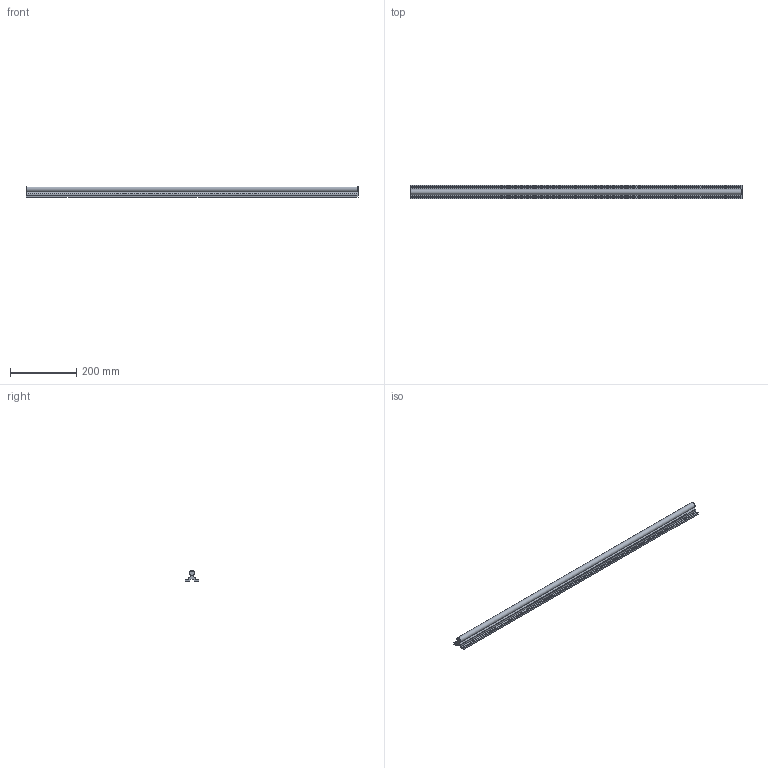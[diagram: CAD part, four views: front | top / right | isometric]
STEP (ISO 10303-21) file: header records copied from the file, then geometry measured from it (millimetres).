
FILE_DESCRIPTION(/* description */ (''),/* implementation_level */ '2;1');
FILE_NAME(/* name */ 'C:\Users\David\Desktop\stepFiles\Profilfuehrung\LFS16x1000.stp',/* time_stamp */ '2018-06-24T15:18:16+02:00',/* author */ ('Buskamp'),/* organization */ (''),/* preprocessor_version */ 'ST-DEVELOPER v17',/* originating_system */ 'Autodesk Inventor 2019',/* authorisation */ '');
FILE_SCHEMA (('AUTOMOTIVE_DESIGN { 1 0 10303 214 3 1 1 }'));
Length unit declared in the file: millimetre
Products named in the file (1): Linearführung D16xvariabel
Bounding box: 1000 x 40 x 32.97 mm (x, y, z)
Volume: 510597.1 mm3; surface area: 157326.1 mm2
Topology: 1 solids, 1 shells, 100 faces, 318 edges, 206 vertices
Faces by surface type: plane 67, cone 18, cylinder 15
Full cylindrical faces by diameter (mm): 5.5 x14
Entity records: 3595 total; most frequent: CARTESIAN_POINT 697, ORIENTED_EDGE 636, DIRECTION 602, EDGE_CURVE 318, AXIS2_PLACEMENT_3D 219, VERTEX_POINT 206, LINE 164, VECTOR 164
